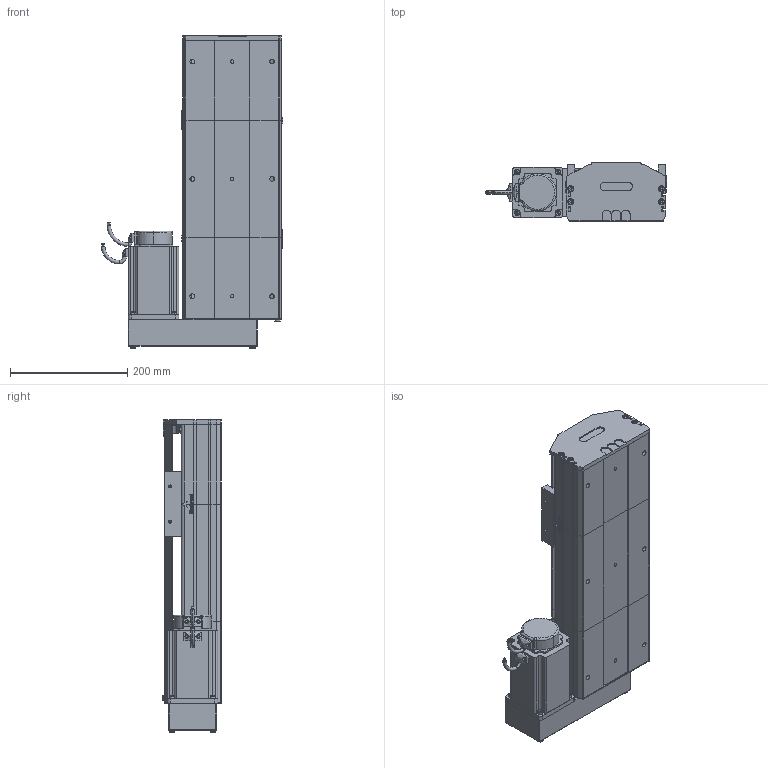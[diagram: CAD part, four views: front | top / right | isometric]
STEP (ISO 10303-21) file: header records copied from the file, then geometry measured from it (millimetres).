
FILE_DESCRIPTION (( 'STEP AP214' ), '1' );
FILE_NAME ('D17 TSN BR S200.STEP', '2010-06-30T07:26:39', ( 'Christophe Gaillard' ), ( 'SGA' ), 'SwSTEP 2.0', 'SolidWorks 2010', '' );
FILE_SCHEMA (( 'AUTOMOTIVE_DESIGN' ));
Length unit declared in the file: millimetre
Products named in the file (33): corpl tail D17_Default; plaque de  bout tail D17_Default; vis M5 L12_Default; renvoi BR_Default; tete d''axe bas D17; codeur 90BLDC125-640; Arbre+rail tail D17; tete d''axe haut D17; Conecteur2_Default; Vis M5 L16-2_Default; Conecteur_Default; corps 90BLDC125A-640; avant 90BLDC125A-640; couvercle D17_Default; Moteur motionking 90BLDC125A-640; vis M5 L25_Default; vis M5 L8 90°_Default; Arbre+rail head D17; corpl head D17 BM_Default; head BR_Default; vis M5 L5_Default; plaque de  bout BM head D17_Default; couvercle D17 head_Default; chariot D17 TSN; guide D17; Chariot D17 TBN; Cvis M5 L70_Default; arbre + rail D17 Course 200 ; course 200 D17_Default; D17 TSN BR S200; Tail D17_Default; couvercle D17 course L200_Default; corp D17 200_Default
Assembly tree (51 placements, depth 4):
  D17 TSN BR S200
    head BR_Default
      couvercle D17 head_Default
      vis M5 L12_Default  x8
      Cvis M5 L70_Default  x2
      plaque de  bout BM head D17_Default
      Moteur motionking 90BLDC125A-640
        Conecteur2_Default
        corps 90BLDC125A-640
        avant 90BLDC125A-640
        Conecteur_Default
        codeur 90BLDC125-640
      Vis M5 L16-2_Default  x4
      corpl head D17 BM_Default
      renvoi BR_Default
      Arbre+rail head D17
      vis M5 L5_Default  x2
    chariot D17 TSN
      Chariot D17 TBN
      guide D17  x2
    Tail D17_Default
      tete d''axe haut D17
      plaque de  bout tail D17_Default
      vis M5 L12_Default  x4
      tete d''axe bas D17
      couvercle D17_Default
      vis M5 L8 90°_Default  x2
      corpl tail D17_Default
      vis M5 L25_Default  x2
      Arbre+rail tail D17
    course 200 D17_Default
      corp D17 200_Default
      couvercle D17 course L200_Default
      arbre + rail D17 Course 200 
Bounding box: 308.95 x 99.7 x 532.7 mm (x, y, z)
Volume: 4496428.7 mm3; surface area: 1079367.4 mm2
Topology: 75 solids, 75 shells, 2093 faces, 5263 edges, 3404 vertices
Faces by surface type: plane 1322, cylinder 510, bspline 136, torus 65, cone 56, sphere 4
Entity records: 69816 total; most frequent: CARTESIAN_POINT 22216, ORIENTED_EDGE 8434, DIRECTION 7874, EDGE_CURVE 4217, VECTOR 2978, LINE 2978, VERTEX_POINT 2770, AXIS2_PLACEMENT_3D 2448
